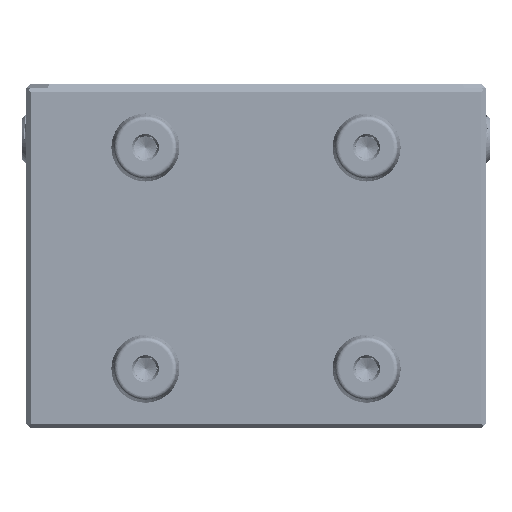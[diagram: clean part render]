
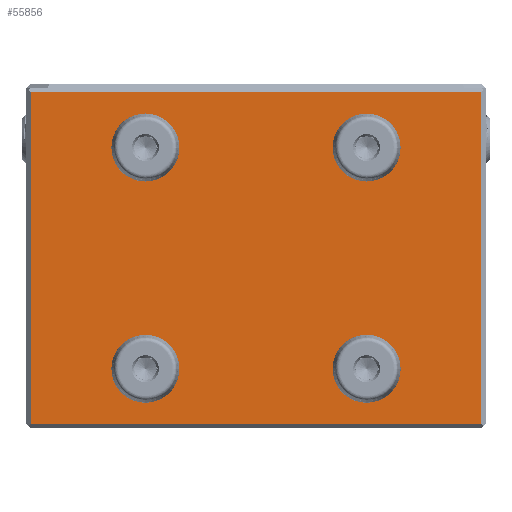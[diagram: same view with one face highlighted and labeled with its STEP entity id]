
A CAD part, front view. The second image highlights one B-rep face of the part: STEP entity #55856.
In plain terms, the highlighted planar face has unit normal (0, -1, 0).
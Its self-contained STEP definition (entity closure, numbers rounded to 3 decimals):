
#9323=DIRECTION('',(1.,0.,0.));
#9324=VECTOR('',#9323,106.);
#9325=CARTESIAN_POINT('',(-53.,40.,-32.5));
#9326=LINE('',#9325,#9324);
#9327=DIRECTION('',(0.,0.,1.));
#9328=VECTOR('',#9327,78.);
#9329=CARTESIAN_POINT('',(-53.,40.,-32.5));
#9330=LINE('',#9329,#9328);
#9331=DIRECTION('',(-1.,0.,0.));
#9332=VECTOR('',#9331,106.);
#9333=CARTESIAN_POINT('',(53.,40.,45.5));
#9334=LINE('',#9333,#9332);
#9335=DIRECTION('',(0.,0.,-1.));
#9336=VECTOR('',#9335,78.);
#9337=CARTESIAN_POINT('',(53.,40.,45.5));
#9338=LINE('',#9337,#9336);
#9339=CARTESIAN_POINT('',(26.,40.,32.5));
#9340=DIRECTION('',(0.,1.,0.));
#9341=DIRECTION('',(0.009,0.,1.));
#9342=AXIS2_PLACEMENT_3D('',#9339,#9340,#9341);
#9344=CARTESIAN_POINT('',(26.,40.,32.5));
#9345=DIRECTION('',(0.,1.,0.));
#9346=DIRECTION('',(-0.009,0.,-1.));
#9347=AXIS2_PLACEMENT_3D('',#9344,#9345,#9346);
#9349=CARTESIAN_POINT('',(26.,40.,-19.5));
#9350=DIRECTION('',(0.,1.,0.));
#9351=DIRECTION('',(0.009,0.,1.));
#9352=AXIS2_PLACEMENT_3D('',#9349,#9350,#9351);
#9354=CARTESIAN_POINT('',(26.,40.,-19.5));
#9355=DIRECTION('',(0.,1.,0.));
#9356=DIRECTION('',(-0.009,0.,-1.));
#9357=AXIS2_PLACEMENT_3D('',#9354,#9355,#9356);
#9359=CARTESIAN_POINT('',(-26.,40.,-19.5));
#9360=DIRECTION('',(0.,1.,0.));
#9361=DIRECTION('',(0.009,0.,1.));
#9362=AXIS2_PLACEMENT_3D('',#9359,#9360,#9361);
#9364=CARTESIAN_POINT('',(-26.,40.,-19.5));
#9365=DIRECTION('',(0.,1.,0.));
#9366=DIRECTION('',(-0.009,0.,-1.));
#9367=AXIS2_PLACEMENT_3D('',#9364,#9365,#9366);
#9369=CARTESIAN_POINT('',(-26.,40.,32.5));
#9370=DIRECTION('',(0.,1.,0.));
#9371=DIRECTION('',(0.009,0.,1.));
#9372=AXIS2_PLACEMENT_3D('',#9369,#9370,#9371);
#9374=CARTESIAN_POINT('',(-26.,40.,32.5));
#9375=DIRECTION('',(0.,1.,0.));
#9376=DIRECTION('',(-0.009,0.,-1.));
#9377=AXIS2_PLACEMENT_3D('',#9374,#9375,#9376);
#39777=CARTESIAN_POINT('',(-53.,40.,-32.5));
#39778=CARTESIAN_POINT('',(53.,40.,-32.5));
#39779=VERTEX_POINT('',#39777);
#39780=VERTEX_POINT('',#39778);
#39783=CARTESIAN_POINT('',(53.,40.,45.5));
#39784=VERTEX_POINT('',#39783);
#39795=CARTESIAN_POINT('',(-53.,40.,45.5));
#39796=VERTEX_POINT('',#39795);
#48101=CARTESIAN_POINT('',(26.066,40.,39.998));
#48102=CARTESIAN_POINT('',(25.934,40.,25.002));
#48103=VERTEX_POINT('',#48101);
#48104=VERTEX_POINT('',#48102);
#48243=CARTESIAN_POINT('',(26.066,40.,-12.002));
#48244=CARTESIAN_POINT('',(25.934,40.,-26.998));
#48245=VERTEX_POINT('',#48243);
#48246=VERTEX_POINT('',#48244);
#48385=CARTESIAN_POINT('',(-25.934,40.,-12.002));
#48386=CARTESIAN_POINT('',(-26.066,40.,-26.998));
#48387=VERTEX_POINT('',#48385);
#48388=VERTEX_POINT('',#48386);
#48527=CARTESIAN_POINT('',(-25.934,40.,39.998));
#48528=CARTESIAN_POINT('',(-26.066,40.,25.002));
#48529=VERTEX_POINT('',#48527);
#48530=VERTEX_POINT('',#48528);
#55819=CARTESIAN_POINT('',(0.,40.,0.));
#55820=DIRECTION('',(0.,1.,0.));
#55821=DIRECTION('',(1.,0.,0.));
#55822=AXIS2_PLACEMENT_3D('',#55819,#55820,#55821);
#55823=PLANE('',#55822);
#55824=ORIENTED_EDGE('',*,*,#55782,.F.);
#55826=ORIENTED_EDGE('',*,*,#55825,.T.);
#55828=ORIENTED_EDGE('',*,*,#55827,.F.);
#55829=ORIENTED_EDGE('',*,*,#55810,.T.);
#55830=EDGE_LOOP('',(#55824,#55826,#55828,#55829));
#55831=FACE_OUTER_BOUND('',#55830,.F.);
#55833=ORIENTED_EDGE('',*,*,#55832,.F.);
#55835=ORIENTED_EDGE('',*,*,#55834,.F.);
#55836=EDGE_LOOP('',(#55833,#55835));
#55837=FACE_BOUND('',#55836,.F.);
#55839=ORIENTED_EDGE('',*,*,#55838,.F.);
#55841=ORIENTED_EDGE('',*,*,#55840,.F.);
#55842=EDGE_LOOP('',(#55839,#55841));
#55843=FACE_BOUND('',#55842,.F.);
#55845=ORIENTED_EDGE('',*,*,#55844,.F.);
#55847=ORIENTED_EDGE('',*,*,#55846,.F.);
#55848=EDGE_LOOP('',(#55845,#55847));
#55849=FACE_BOUND('',#55848,.F.);
#55851=ORIENTED_EDGE('',*,*,#55850,.F.);
#55853=ORIENTED_EDGE('',*,*,#55852,.F.);
#55854=EDGE_LOOP('',(#55851,#55853));
#55855=FACE_BOUND('',#55854,.F.);
#55856=ADVANCED_FACE('',(#55831,#55837,#55843,#55849,#55855),#55823,.F.);
#9343=CIRCLE('',#9342,7.498);
#9348=CIRCLE('',#9347,7.498);
#9353=CIRCLE('',#9352,7.498);
#9358=CIRCLE('',#9357,7.498);
#9363=CIRCLE('',#9362,7.498);
#9368=CIRCLE('',#9367,7.498);
#9373=CIRCLE('',#9372,7.498);
#9378=CIRCLE('',#9377,7.498);
#55782=EDGE_CURVE('',#39779,#39780,#9326,.T.);
#55810=EDGE_CURVE('',#39784,#39780,#9338,.T.);
#55825=EDGE_CURVE('',#39779,#39796,#9330,.T.);
#55827=EDGE_CURVE('',#39784,#39796,#9334,.T.);
#55832=EDGE_CURVE('',#48103,#48104,#9343,.T.);
#55834=EDGE_CURVE('',#48104,#48103,#9348,.T.);
#55838=EDGE_CURVE('',#48245,#48246,#9353,.T.);
#55840=EDGE_CURVE('',#48246,#48245,#9358,.T.);
#55844=EDGE_CURVE('',#48387,#48388,#9363,.T.);
#55846=EDGE_CURVE('',#48388,#48387,#9368,.T.);
#55850=EDGE_CURVE('',#48529,#48530,#9373,.T.);
#55852=EDGE_CURVE('',#48530,#48529,#9378,.T.);
